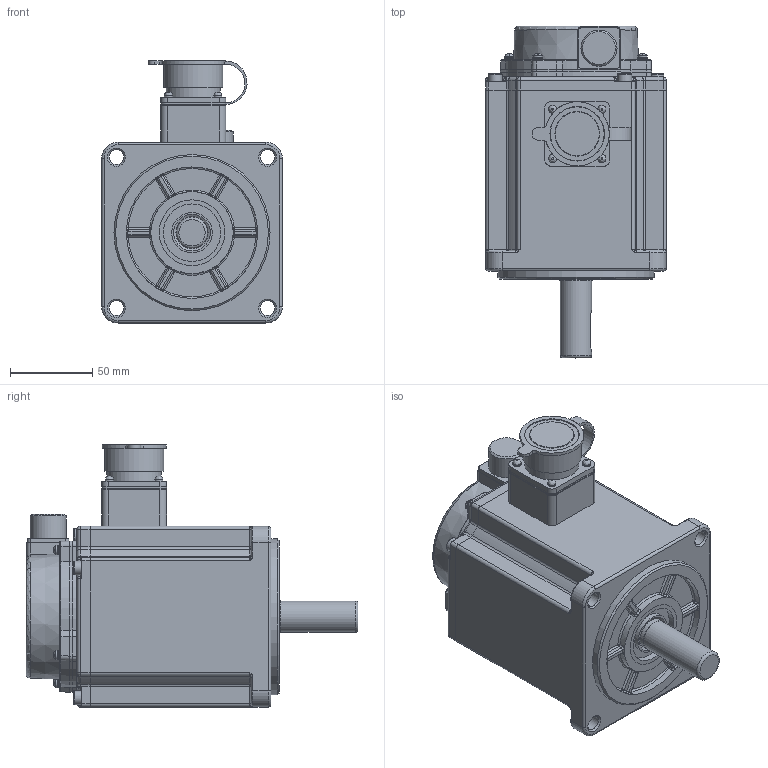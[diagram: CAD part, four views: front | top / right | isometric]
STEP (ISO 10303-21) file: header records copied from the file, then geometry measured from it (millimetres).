
FILE_DESCRIPTION(/* description */ (''),/* implementation_level */ '2;1');
FILE_NAME(/* name */ '磁编6N.stp',/* time_stamp */ '2024-04-19T09:36:37+08:00',/* author */ (''),/* organization */ (''),/* preprocessor_version */ 'ST-DEVELOPER v18.1',/* originating_system */ 'SIEMENS PLM Software NX 2000',/* authorisation */ '');
FILE_SCHEMA (('AUTOMOTIVE_DESIGN { 1 0 10303 214 3 1 1 1 }'));
Length unit declared in the file: millimetre
Products named in the file (1): 92504378DBD25y0u
Bounding box: 110 x 201.99 x 159.5 mm (x, y, z)
Volume: 1471543.8 mm3; surface area: 185450.7 mm2
Topology: 25 solids, 27 shells, 1139 faces, 2686 edges, 1595 vertices
Faces by surface type: cylinder 406, plane 394, torus 104, bspline 93, cone 74, sphere 68
Full cylindrical faces by diameter (mm): 2 x4, 2.5 x10, 4.1 x8, 4.2 x3, 4.826 x4, 5 x6, 5.5 x3, 8.5 x4, 9 x4, 19 x1, 19.6 x1, 20 x1, 22 x1, 22.288 x1, 24.616 x1, 27 x2, 30 x1, 33 x3, 35 x1, 36 x1, 40 x2, 95 x1, 100 x1, 104 x1
Entity records: 34630 total; most frequent: CARTESIAN_POINT 9298, DIRECTION 5508, ORIENTED_EDGE 4920, EDGE_CURVE 2460, AXIS2_PLACEMENT_3D 2256, VERTEX_POINT 1549, EDGE_LOOP 1359, CIRCLE 1185
